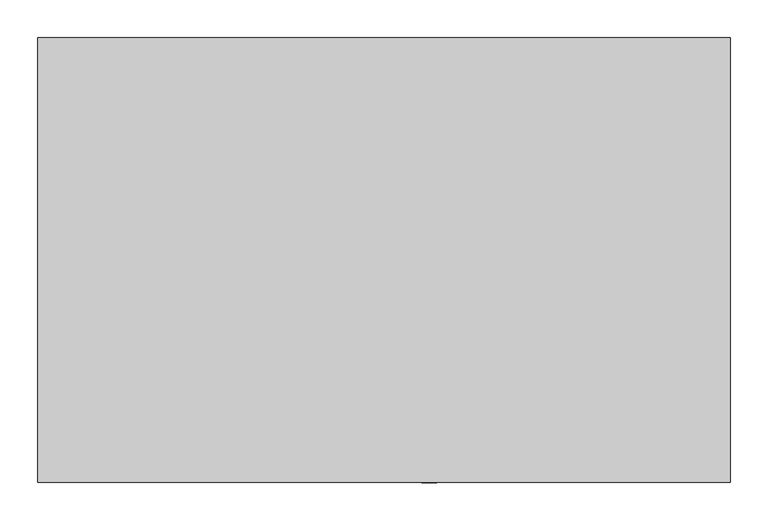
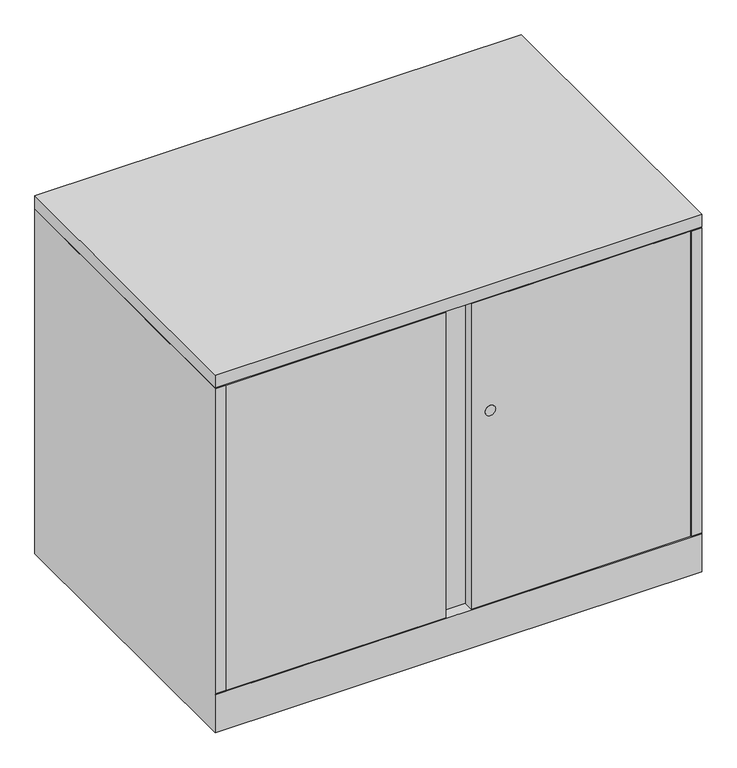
"""IFC4 building model written with IfcOpenShell, lengths in millimetres: furniture geometry, Steelcase - Universal Storage - Cabinet - Storage - 28H - Flush Steel : 23 1/8D x 36W."""

from ifc_helpers import new_model, si_unit, point, frame, frame_2d, origin, place, context, project, spatial, polyline, circle_curve, trimmed, segment, composite_curve, outline, extrude, faceted_brep, source, transform, mapped, element, save


def furniture_21f831ae(model_context):
    return source(origin(), model_context, "Body", "SolidModel", [
        extrude(outline(polyline([(914.4, 0.0), (914.4, -587.502), (0.0, -587.502), (0.0, 0.0), (914.4, 0.0)])), frame((0.0, 0.0, 685.7999516), z_axis=(0.0, 0.0, 1.0), x_axis=(1.0, 0.0, 0.0)), (0.0, 0.0, 1.0), 25.4),
        extrude(outline(composite_curve([segment(trimmed(circle_curve(frame_2d((460.3889832, 517.0109835)), 9.7167829), [point((460.3889832, 526.7277664))], [point((460.3889832, 507.2942006))], False, "CARTESIAN"), True, "CONTINUOUS"), segment(trimmed(circle_curve(frame_2d((460.3889832, 517.0109835)), 9.7167829), [point((460.3889832, 507.2942006))], [point((460.3889832, 526.7277664))], False, "CARTESIAN"), True, "CONTINUOUS")], self_intersect=False)), frame((0.0, -588.1715275, 0.0), z_axis=(0.0, 1.0, 0.0), x_axis=(0.0, 0.0, 1.0)), (0.0, 0.0, 1.0), 0.6695275),
        extrude(outline(polyline([(20.8280006, -561.975866), (893.572, -561.975866), (893.572, -587.502), (481.33, -587.502), (481.33, -568.3258781), (433.07, -568.3258781), (433.07, -587.502), (20.8280006, -587.502), (20.8280006, -561.975866)])), frame((0.0, 0.0, 77.724), z_axis=(0.0, 0.0, 1.0), x_axis=(1.0, 0.0, 0.0)), (0.0, 0.0, 1.0), 606.552),
        faceted_brep([(914.4, 0.0, 0.0), (914.4, -587.502, 0.0), (0.0, -587.502, 0.0), (0.0, 0.0, 0.0), (0.0, 0.0, 684.276), (914.4, 0.0, 684.276), (0.0, -587.502, 76.2), (0.0, -587.502, 77.724), (0.0, -587.502, 684.276), (914.4, -587.502, 76.2), (914.4, -587.502, 684.276), (914.4, -587.502, 77.724), (889.0000242, -25.4000008, 684.276), (889.0000242, -560.4518674, 684.276), (893.572, -560.4518674, 684.276), (893.572, -561.9758781, 684.276), (895.096, -561.9758781, 684.276), (895.096, -587.502, 684.276), (19.304, -587.502, 684.276), (19.304, -561.975866, 684.276), (20.8280006, -561.975866, 684.276), (20.8280006, -560.4518674, 684.276), (25.4000008, -560.4518674, 684.276), (25.4000008, -25.4000008, 684.276), (19.304, -587.502, 77.724), (19.304, -568.198, 77.724), (895.096, -587.502, 77.724), (895.096, -568.0718418, 77.724), (889.0000242, -25.4000008, 77.724), (889.0000242, -560.4518674, 77.724), (893.572, -560.4518674, 77.724), (893.572, -561.9758781, 77.724), (895.096, -561.9758781, 77.724), (19.304, -561.975866, 77.724), (20.8280006, -561.975866, 77.724), (20.8280006, -560.4518674, 77.724), (25.4000008, -560.4518674, 77.724), (25.4000008, -25.4000008, 77.724), (25.526134, -561.975866, 77.724), (889.0000242, -561.975866, 77.724)], [[[0, 1, 2, 3]], [[0, 3, 4, 5]], [[4, 3, 2, 6, 7, 8]], [[2, 1, 9, 6]], [[1, 0, 5, 10, 11, 9]], [[12, 13, 14, 15, 16, 17, 10, 5, 4, 8, 18, 19, 20, 21, 22, 23]], [[24, 7, 25]], [[11, 26, 27]], [[13, 12, 28, 29]], [[14, 13, 29, 30]], [[15, 14, 30, 31]], [[16, 15, 31, 32]], [[17, 16, 32, 27, 26]], [[10, 17, 26, 11]], [[18, 8, 7, 24]], [[19, 18, 24, 25, 33]], [[20, 19, 33, 34]], [[21, 20, 34, 35]], [[22, 21, 35, 36]], [[23, 22, 36, 37]], [[12, 23, 37, 28]], [[38, 39, 27, 32, 31, 30, 29, 28, 37, 36, 35, 34, 33, 25]], [[7, 6, 38, 25]], [[39, 38, 6, 9]], [[39, 9, 11, 27]]]),
    ])


if __name__ == "__main__":
    model = new_model("IFC4")
    model_context = context("Model", 3, world=origin())
    ifc_project = project(units=[si_unit("LENGTHUNIT", "METRE", prefix="MILLI")], contexts=[model_context])
    site = spatial("IfcSite", under=ifc_project)
    building = spatial("IfcBuilding", under=site)
    placement = place(None, origin())
    furniture_shape = furniture_21f831ae(model_context)
    element("IfcFurniture", 1, ObjectType="Steelcase - Universal Storage - Cabinet - Storage - 28H - Flush Steel : 23 1/8D x 36W", at=placement, inside=building, context=model_context, shape_type="MappedRepresentation", body=[
        mapped(furniture_shape, transform((0.0, 0.0, 0.0), x_axis=(1.0, 0.0, 0.0), y_axis=(0.0, 1.0, 0.0), z_axis=(0.0, 0.0, 1.0))),
    ])
    save(model, "model.ifc")
